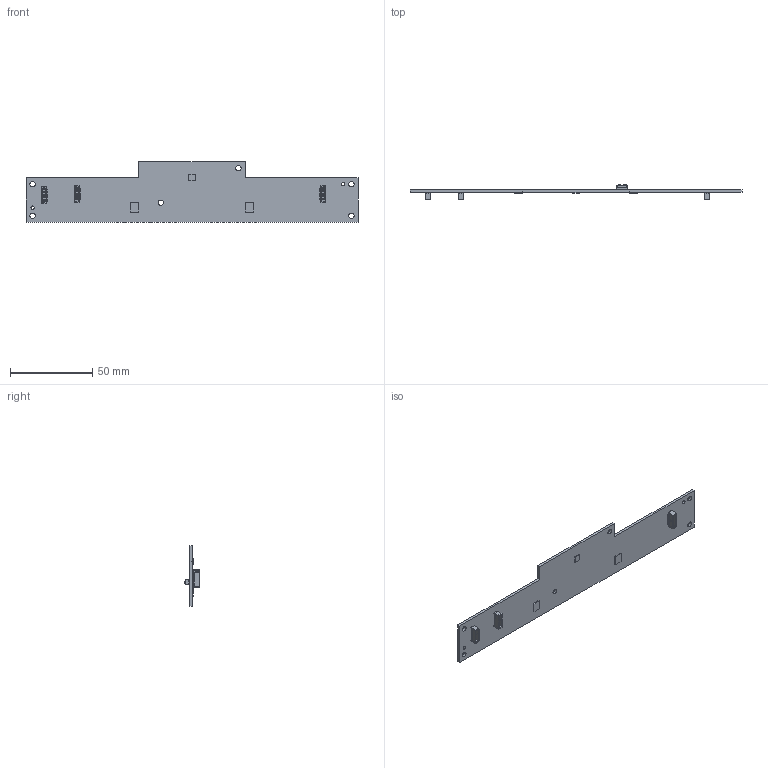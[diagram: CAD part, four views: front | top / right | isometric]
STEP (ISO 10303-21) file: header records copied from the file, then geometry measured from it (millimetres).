
FILE_DESCRIPTION((''),'2;1');
FILE_NAME('LED_PCB_ASSY_ASM','2020-12-04T',('g6007893'),(''),'PRO/ENGINEER BY PARAMETRIC TECHNOLOGY CORPORATION, 2013320','PRO/ENGINEER BY PARAMETRIC TECHNOLOGY CORPORATION, 2013320','');
FILE_SCHEMA(('AUTOMOTIVE_DESIGN { 1 0 10303 214 1 1 1 1 }'));
Length unit declared in the file: millimetre
Products named in the file (7): LED_PCB; LED_EVERLIGHT_R6GHY5C_1_1_1; LP5024-DRIVER-IC; LP5036-DRIVER-IC; HS6108E-8PIN-VERTICAL; IR_RECEIVER; LED_PCB_ASSY_ASM
Assembly tree (34 placements, depth 2):
  LED_PCB_ASSY_ASM
    LED_PCB
    LED_EVERLIGHT_R6GHY5C_1_1_1  x26
    LP5024-DRIVER-IC
    LP5036-DRIVER-IC  x2
    HS6108E-8PIN-VERTICAL  x3
    IR_RECEIVER
Bounding box: 202 x 9.1 x 37 mm (x, y, z)
Volume: 10024.3 mm3; surface area: 14378.8 mm2
Topology: 34 solids, 58 shells, 2115 faces, 6004 edges, 4052 vertices
Faces by surface type: plane 1531, cylinder 580, sphere 4
Entity records: 25404 total; most frequent: CARTESIAN_POINT 3489, ORIENTED_EDGE 3356, DIRECTION 3313, EDGE_CURVE 1678, PRESENTATION_STYLE_ASSIGNMENT 1536, STYLED_ITEM 1464, CURVE_STYLE 1452, VECTOR 1339
